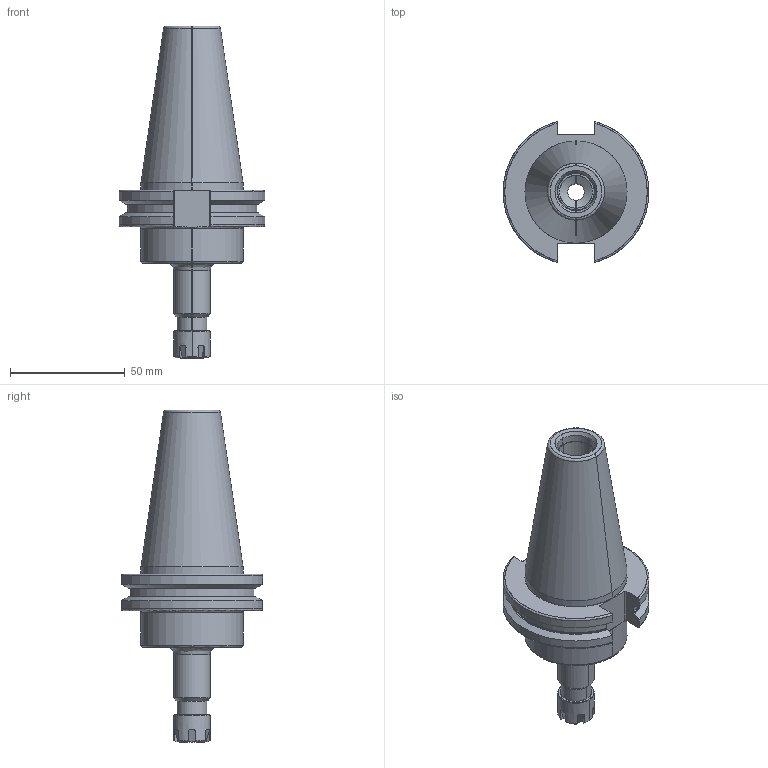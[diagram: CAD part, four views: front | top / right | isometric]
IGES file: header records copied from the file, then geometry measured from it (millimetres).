
Start section: SolidWorks IGES file using analytic representation for surfaces
Global section: file name: C:\ProgramData\Alignex\DDS\processing\files\C4C4-0011\igs\C4C4-0011.igs; native system: SolidWorks 2013; preprocessor: SolidWorks 2013; author: SYSTEM; date: 130211.152748; units: inch
Bounding box: 63.47 x 61.35 x 144.45 mm (x, y, z)
Surface area: 26656.3 mm2 (no closed solid volume)
Topology: 0 solids, 0 shells, 318 faces, 3665 edges, 3663 vertices
Faces by surface type: bspline 249, revolution 69
